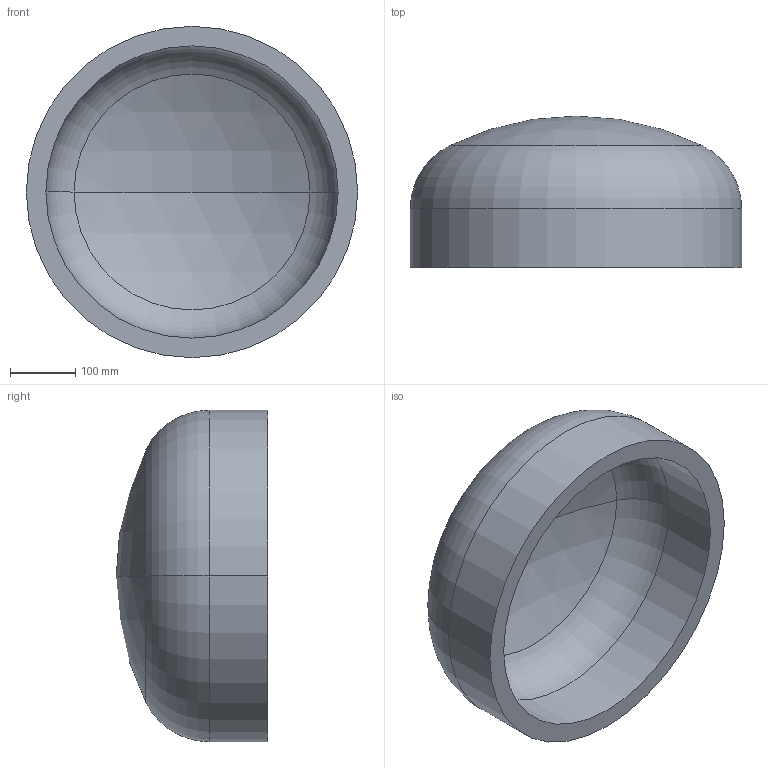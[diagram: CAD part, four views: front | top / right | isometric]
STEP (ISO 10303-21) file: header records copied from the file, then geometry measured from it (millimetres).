
FILE_DESCRIPTION (( 'STEP AP203' ), '1' );
FILE_NAME ('DIN 28013 Korbbogenform_-_Boden DIN 28013 - 508 x 90 - I - s=30.step', '2016-07-01T07:53:51', ( '' ), ( '' ), 'SwSTEP 2.0', 'SolidWorks 2013', '' );
FILE_SCHEMA (( 'CONFIG_CONTROL_DESIGN' ));
Length unit declared in the file: millimetre
Products named in the file (1): DIN 28013 Korbbogenform_-_Boden DIN 28013 - 508 x 90 - I - s=30
Bounding box: 508 x 232.29 x 508 mm (x, y, z)
Volume: 11860425.9 mm3; surface area: 837630.3 mm2
Topology: 1 solids, 1 shells, 13 faces, 24 edges, 14 vertices
Faces by surface type: torus 4, cylinder 4, sphere 4, plane 1
Entity records: 407 total; most frequent: DIRECTION 72, CARTESIAN_POINT 52, ORIENTED_EDGE 48, AXIS2_PLACEMENT_3D 34, EDGE_CURVE 24, CIRCLE 20, EDGE_LOOP 14, VERTEX_POINT 14
